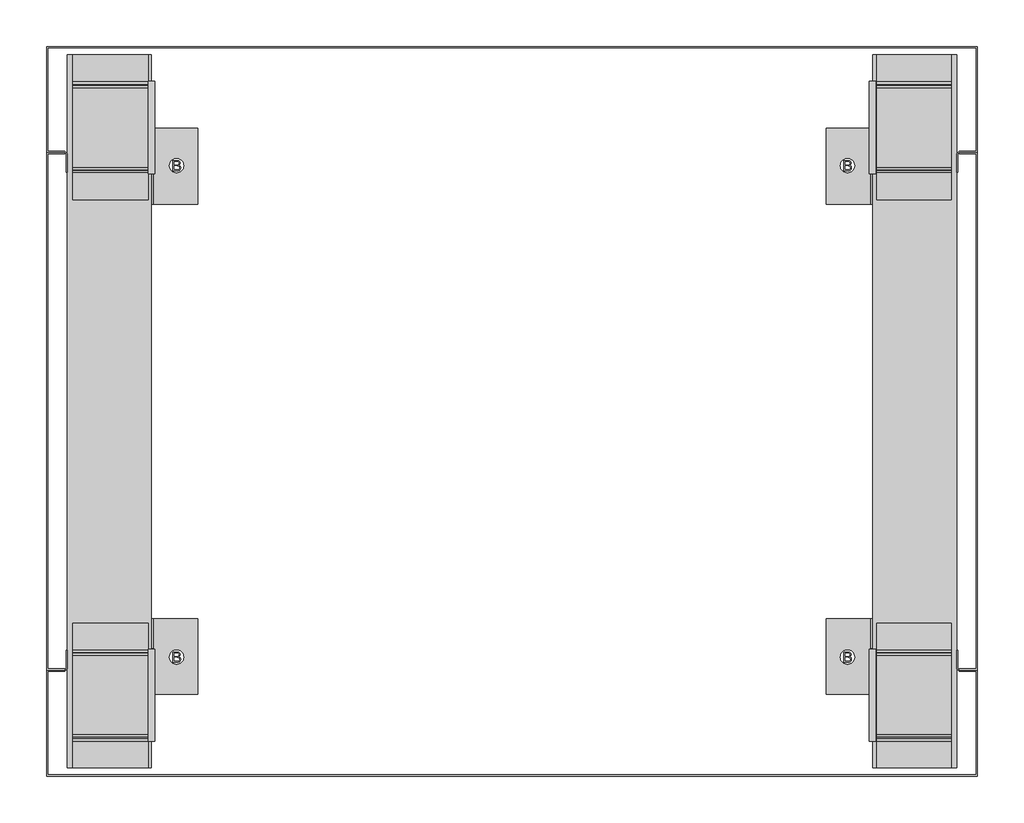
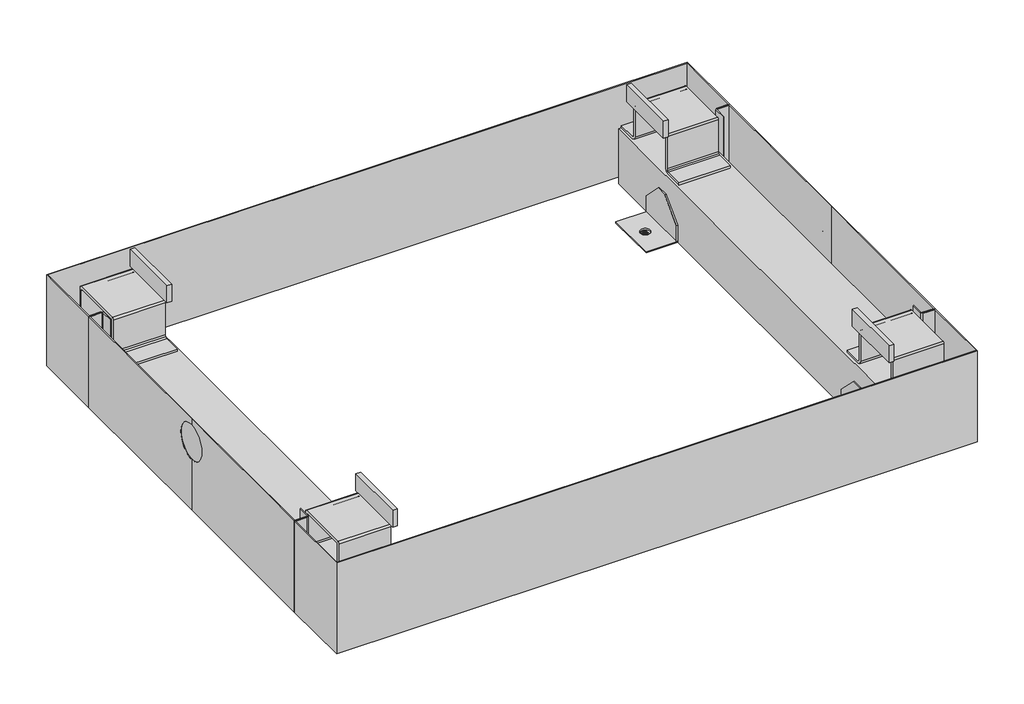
# Not in any storey: 1 proxy.
"""IFC4 building model written with IfcOpenShell, lengths in millimetres."""

import ifcopenshell
import ifcopenshell.guid

model = None  # the IFC model being written
_history = None  # IfcOwnerHistory: only IFC2X3 demands one
_inside = {}  # id of a spatial element -> (the spatial element, [elements in it])
_under = {}  # id of a project, library or spatial element -> (it, [spatial elements below it])
_declared = {}  # id of a project -> (the project, [libraries it declares])
_typed = {}  # id of a type object -> (the type object, [elements of that type])
_made_of = {}  # id of a material, layer set ... -> (it, [elements and type objects made of it])


def new_model(schema):
    """Start an empty IFC model of exactly this schema.

    Asked for "IFC4X3", IfcOpenShell would pick the latest addendum, in which some entities
    have other attributes; the version numbers below select the first issue.
    IFC2X3 requires an IfcOwnerHistory on every rooted entity: one is made here for all.
    """
    global model, _history
    if schema == "IFC4X3":
        model = ifcopenshell.file(schema_version=(4, 3, 0, 0))
    else:
        model = ifcopenshell.file(schema=schema)
    _inside.clear()
    _under.clear()
    _declared.clear()
    _typed.clear()
    _made_of.clear()
    _history = None
    if model.schema == "IFC2X3":
        org = make("IfcOrganization", Name="unknown")
        user = make(
            "IfcPersonAndOrganization",
            ThePerson=make("IfcPerson", FamilyName="unknown"),
            TheOrganization=org,
        )
        app = make(
            "IfcApplication",
            ApplicationDeveloper=org,
            Version="unknown",
            ApplicationFullName="unknown",
            ApplicationIdentifier="unknown",
        )
        _history = make(
            "IfcOwnerHistory",
            OwningUser=user,
            OwningApplication=app,
            ChangeAction="ADDED",
            CreationDate=0,
        )
    return model


def make(cls, **values):
    """One entity of the class cls with the attributes given. An attribute that is None is left unset."""
    return model.create_entity(
        cls, **{name: value for name, value in values.items() if value is not None}
    )


def rooted(cls, **values):
    """An entity with a GlobalId (a new one), such as an element, a storey or a relation."""
    return make(cls, GlobalId=ifcopenshell.guid.new(), OwnerHistory=_history, **values)


def si_unit(unit_type, name, prefix=None):
    """IfcSIUnit, for example si_unit("LENGTHUNIT", "METRE", prefix="MILLI")."""
    return make("IfcSIUnit", UnitType=unit_type, Prefix=prefix, Name=name)


def assignment(units):
    """IfcUnitAssignment: the units of a project."""
    return None if units is None else make("IfcUnitAssignment", Units=units)


def point(xyz):
    """IfcCartesianPoint."""
    return None if xyz is None else make("IfcCartesianPoint", Coordinates=xyz)


def direction(xyz):
    """IfcDirection."""
    return None if xyz is None else make("IfcDirection", DirectionRatios=xyz)


def frame(location, z_axis=None, x_axis=None):
    """IfcAxis2Placement3D, a coordinate frame: its origin and axes. An axis left out is left unset."""
    return make(
        "IfcAxis2Placement3D",
        Location=point(location),
        Axis=direction(z_axis),
        RefDirection=direction(x_axis),
    )


def frame_2d(location, x_axis=None):
    """IfcAxis2Placement2D, a coordinate frame in the plane: its origin and x axis."""
    return make(
        "IfcAxis2Placement2D", Location=point(location), RefDirection=direction(x_axis)
    )


def origin():
    """The frame at (0, 0, 0) with its axes left unset."""
    return frame((0.0, 0.0, 0.0))


def origin_with_axes():
    """The frame at (0, 0, 0) with the z axis (0, 0, 1) and the x axis (1, 0, 0) written out."""
    return frame((0.0, 0.0, 0.0), z_axis=(0.0, 0.0, 1.0), x_axis=(1.0, 0.0, 0.0))


def place(relative_to, where):
    """IfcLocalPlacement: puts the frame where relative to a parent placement (None: the world)."""
    return make(
        "IfcLocalPlacement", PlacementRelTo=relative_to, RelativePlacement=where
    )


def context(
    kind, dimensions, precision=None, world=None, true_north=None, identifier=None
):
    """IfcGeometricRepresentationContext, for example the 3D "Model" context."""
    return make(
        "IfcGeometricRepresentationContext",
        ContextIdentifier=identifier,
        ContextType=kind,
        CoordinateSpaceDimension=dimensions,
        Precision=precision,
        WorldCoordinateSystem=world,
        TrueNorth=true_north,
    )


def project(units=None, contexts=None):
    """IfcProject with its units and contexts."""
    return rooted(
        "IfcProject",
        Name="project",
        RepresentationContexts=contexts,
        UnitsInContext=assignment(units),
    )


def spatial(cls, under=None, at=None, **own):
    """A site, building, storey or space (cls), placed at a placement, below another one or the project."""
    s = rooted(cls, ObjectPlacement=at, **own)
    if under is not None:
        _under.setdefault(under.id(), (under, []))[1].append(s)
    return s


def polyline(points):
    """IfcPolyline through the points."""
    return make("IfcPolyline", Points=[point(p) for p in points])


def circle_curve(where, radius):
    """IfcCircle in the frame where."""
    return make("IfcCircle", Position=where, Radius=radius)


def trimmed(basis, trim1, trim2, sense, master):
    """IfcTrimmedCurve: the piece of a basis curve between two trims."""
    return make(
        "IfcTrimmedCurve",
        BasisCurve=basis,
        Trim1=trim1,
        Trim2=trim2,
        SenseAgreement=sense,
        MasterRepresentation=master,
    )


def segment(curve, same_sense, transition):
    """IfcCompositeCurveSegment."""
    return make(
        "IfcCompositeCurveSegment",
        Transition=transition,
        SameSense=same_sense,
        ParentCurve=curve,
    )


def composite_curve(segments, self_intersect=None):
    """IfcCompositeCurve: segments joined end to end."""
    return make("IfcCompositeCurve", Segments=segments, SelfIntersect=self_intersect)


def outline(outer, holes=None, kind="AREA"):
    """IfcArbitraryClosedProfileDef: a profile drawn as a closed curve; with holes, ...WithVoids."""
    if holes is None:
        return make("IfcArbitraryClosedProfileDef", ProfileType=kind, OuterCurve=outer)
    return make(
        "IfcArbitraryProfileDefWithVoids",
        ProfileType=kind,
        OuterCurve=outer,
        InnerCurves=holes,
    )


def extrude(swept, where, along, depth):
    """IfcExtrudedAreaSolid: the profile swept, set in the frame where, extruded along a direction by depth."""
    return make(
        "IfcExtrudedAreaSolid",
        SweptArea=swept,
        Position=where,
        ExtrudedDirection=direction(along),
        Depth=depth,
    )


def shape(context_of_items, identifier, shape_type, items):
    """IfcShapeRepresentation: the items that make up one representation, for example the "Body"."""
    return make(
        "IfcShapeRepresentation",
        ContextOfItems=context_of_items,
        RepresentationIdentifier=identifier,
        RepresentationType=shape_type,
        Items=items,
    )


def source(mapping_origin, context_of_items, identifier, shape_type, items):
    """IfcRepresentationMap: a shape defined once, which mapped items show again and again."""
    return make(
        "IfcRepresentationMap",
        MappingOrigin=mapping_origin,
        MappedRepresentation=shape(context_of_items, identifier, shape_type, items),
    )


def transform(
    local_origin,
    x_axis=None,
    y_axis=None,
    z_axis=None,
    scale=None,
    scale2=None,
    scale3=None,
    uniform=True,
):
    """IfcCartesianTransformationOperator3D, or its non-uniform kind. x_axis, y_axis, z_axis: its Axis1, 2, 3."""
    if uniform:
        return make(
            "IfcCartesianTransformationOperator3D",
            Axis1=direction(x_axis),
            Axis2=direction(y_axis),
            LocalOrigin=point(local_origin),
            Scale=scale,
            Axis3=direction(z_axis),
        )
    return make(
        "IfcCartesianTransformationOperator3DnonUniform",
        Axis1=direction(x_axis),
        Axis2=direction(y_axis),
        LocalOrigin=point(local_origin),
        Scale=scale,
        Axis3=direction(z_axis),
        Scale2=scale2,
        Scale3=scale3,
    )


def mapped(mapping_source, mapping_target):
    """IfcMappedItem: shows the shape of a source again, moved by a transform."""
    return make(
        "IfcMappedItem", MappingSource=mapping_source, MappingTarget=mapping_target
    )


def made_of(thing, what):
    """Note that an element or type object is made of a material, layer set ...; save() writes the relation."""
    if what is not None:
        _made_of.setdefault(what.id(), (what, []))[1].append(thing)
    return thing


def element(
    cls,
    number,
    at=None,
    inside=None,
    cuts=None,
    type_object=None,
    material=None,
    context=None,
    identifier="Body",
    shape_type=None,
    held_by="IfcProductDefinitionShape",
    body=None,
    shapes=None,
    **own,
):
    """One element of the class cls, such as IfcWall. Its Tag is "e" and its number.

    at: its placement. inside: the storey or other place that contains it. cuts: it is an
    opening in that element (IfcRelVoidsElement). A single representation is given by context,
    identifier, shape_type and body (its items); several are given by shapes. held_by: the class
    of the entity that holds the representations. save() writes the other relations.
    """
    e = rooted(cls, Tag="e%d" % number, ObjectPlacement=at, **own)
    if body is not None:
        shapes = [shape(context, identifier, shape_type, body)]
    if shapes is not None:
        e.Representation = make(held_by, Representations=shapes)
    if inside is not None:
        _inside.setdefault(inside.id(), (inside, []))[1].append(e)
    if cuts is not None:
        rooted(
            "IfcRelVoidsElement", RelatingBuildingElement=cuts, RelatedOpeningElement=e
        )
    if type_object is not None:
        _typed.setdefault(type_object.id(), (type_object, []))[1].append(e)
    return made_of(e, material)


def aggregate(whole, parts):
    """IfcRelAggregates: a whole, such as a stair, and the parts it consists of."""
    return rooted("IfcRelAggregates", RelatingObject=whole, RelatedObjects=parts)


def save(model, path):
    """Write the relations noted so far, then the file.

    IfcRelAggregates (storeys below a building ...), IfcRelContainedInSpatialStructure (elements
    in a storey), IfcRelDefinesByType, IfcRelAssociatesMaterial and IfcRelDeclares: one each for
    every whole, place, type object, material and project.
    """
    for whole, parts in _under.values():
        aggregate(whole, parts)
    for where, things in _inside.values():
        rooted(
            "IfcRelContainedInSpatialStructure",
            RelatedElements=things,
            RelatingStructure=where,
        )
    for kind, things in _typed.values():
        rooted("IfcRelDefinesByType", RelatedObjects=things, RelatingType=kind)
    for what, things in _made_of.values():
        rooted("IfcRelAssociatesMaterial", RelatedObjects=things, RelatingMaterial=what)
    for by, libraries in _declared.values():
        rooted("IfcRelDeclares", RelatingContext=by, RelatedDefinitions=libraries)
    model.write(path)


def plane_surface(at):
    """IfcPlane: the flat surface through the origin of the frame at, square to its z axis."""
    return make("IfcPlane", Position=at)


def revolved_surface(curve, axis_point, axis_direction):
    """IfcSurfaceOfRevolution: the curve turned about the line through axis_point along axis_direction."""
    return make(
        "IfcSurfaceOfRevolution",
        SweptCurve=make("IfcArbitraryOpenProfileDef", ProfileType="CURVE", Curve=curve),
        AxisPosition=make("IfcAxis1Placement", Location=point(axis_point), Axis=direction(axis_direction)),
    )


def advanced_brep(points, edges, surfaces, faces):
    """IfcAdvancedBrep: a solid bounded by faces that lie on surfaces and meet in shared edges.

    An edge is (start, end): straight between two places in points (the first is 0);
    or (start, end, curve); or (start, end, curve, False) where it runs against its curve.
    A face is (place in surfaces, loops), or (place, loops, False) where it looks against
    its surface's normal. A loop lists edges by number (the first is 1), with a minus sign
    where the edge is run from its end to its start. The first loop is the outer one.
    """
    corners = [point(p) for p in points]
    vertices = [make("IfcVertexPoint", VertexGeometry=c) for c in corners]
    made = []
    for start, end, *more in edges:
        made.append(
            make(
                "IfcEdgeCurve",
                EdgeStart=vertices[start],
                EdgeEnd=vertices[end],
                EdgeGeometry=more[0] if more else make("IfcPolyline", Points=[corners[start], corners[end]]),
                SameSense=more[1] if len(more) > 1 else True,
            )
        )
    hull = []
    for where, loops, *sense in faces:
        bounds = []
        for j, loop in enumerate(loops):
            ring = [make("IfcOrientedEdge", EdgeElement=made[abs(k) - 1], Orientation=k > 0) for k in loop]
            bounds.append(
                make(
                    "IfcFaceOuterBound" if j == 0 else "IfcFaceBound",
                    Bound=make("IfcEdgeLoop", EdgeList=ring),
                    Orientation=True,
                )
            )
        hull.append(make("IfcAdvancedFace", Bounds=bounds, FaceSurface=surfaces[where], SameSense=sense[0] if sense else True))
    return make("IfcAdvancedBrep", Outer=make("IfcClosedShell", CfsFaces=hull))


def specialty_equipment_4e6afd6e(model_context):
    return source(origin(), model_context, "Body", "SolidModel", [
        advanced_brep(
        [(-555.0, -126.5, 171.8001281), (-555.0, -435.0, 171.8001281), (-555.0, -743.5, 171.8001281), (-533.1000023, -743.5, 171.8001281), (-533.1000023, -742.0, 171.8001281), (-553.5, -742.0, 171.8001281), (-553.5, -435.0, 171.8001281), (-553.5, -128.0, 171.8001281), (-533.1000023, -128.0, 171.8001281), (-533.1000023, -126.5, 171.8001281), (-555.0, -126.5, 5.0069558), (-533.1000023, -126.5, 5.0069558), (-533.1000023, -128.0, 5.0069558), (-553.5, -128.0, 5.0069558), (-553.5, -435.0, 5.0069558), (-553.5, -742.0, 5.0069558), (-533.1000023, -742.0, 5.0069558), (-533.1000023, -743.5, 5.0069558), (-555.0, -743.5, 5.0069558), (-555.0, -435.0, 5.0069558), (-555.0, -435.0, 97.7016111), (-555.0, -402.9849473, 129.7166638), (-555.0, -435.0, 161.7317164), (-555.0, -467.0150527, 129.7166638), (-553.9619558, -467.0150527, 129.7166638), (-553.9619558, -402.9849473, 129.7166638)],
        [
            (0, 1),
            (1, 2),
            (2, 3),
            (3, 4),
            (4, 5),
            (5, 6),
            (6, 7),
            (7, 8),
            (8, 9),
            (9, 0),
            (10, 11),
            (11, 12),
            (12, 13),
            (13, 14),
            (14, 15),
            (15, 16),
            (16, 17),
            (17, 18),
            (18, 19),
            (19, 10),
            (0, 10),
            (19, 20),
            (20, 21, circle_curve(frame((-555.0, -435.0, 129.7166638), z_axis=(1.0, 0.0, 0.0), x_axis=(0.0, 1.0, 0.0)), 32.0150527)),
            (21, 22, circle_curve(frame((-555.0, -435.0, 129.7166638), z_axis=(1.0, 0.0, 0.0), x_axis=(0.0, 1.0, 0.0)), 32.0150527)),
            (22, 1),
            (22, 23, circle_curve(frame((-555.0, -435.0, 129.7166638), z_axis=(1.0, 0.0, 0.0), x_axis=(0.0, 1.0, 0.0)), 32.0150527)),
            (23, 20, circle_curve(frame((-555.0, -435.0, 129.7166638), z_axis=(1.0, 0.0, 0.0), x_axis=(0.0, 1.0, 0.0)), 32.0150527)),
            (18, 2),
            (17, 3),
            (16, 4),
            (15, 5),
            (14, 6),
            (13, 7),
            (12, 8),
            (11, 9),
            (24, 25, circle_curve(frame((-553.9619558, -435.0, 129.7166638), z_axis=(-1.0, 0.0, 0.0), x_axis=(0.0, 1.0, 0.0)), 32.0150527)),
            (25, 24, circle_curve(frame((-553.9619558, -435.0, 129.7166638), z_axis=(-1.0, 0.0, 0.0), x_axis=(0.0, 1.0, 0.0)), 32.0150527)),
            (25, 21),
            (23, 24),
        ],
        [
            plane_surface(frame((-555.0, -126.5, 171.8001281), z_axis=(0.0, 0.0, 1.0), x_axis=(0.0, -1.0, 0.0))),
            plane_surface(frame((-555.0, -126.5, 5.0069558), z_axis=(0.0, 0.0, -1.0), x_axis=(0.0, 1.0, 0.0))),
            plane_surface(frame((-555.0, -126.5, 171.8001281), z_axis=(-1.0, 0.0, 0.0), x_axis=(0.0, 0.0, -1.0))),
            plane_surface(frame((-555.0, -435.0, 171.8001281), z_axis=(-1.0, 0.0, 0.0), x_axis=(0.0, 0.0, -1.0))),
            plane_surface(frame((-555.0, -743.5, 171.8001281), z_axis=(0.0, -1.0, 0.0), x_axis=(0.0, 0.0, -1.0))),
            plane_surface(frame((-533.1000023, -743.5, 171.8001281), z_axis=(1.0, 0.0, 0.0), x_axis=(0.0, 0.0, -1.0))),
            plane_surface(frame((-533.1000023, -742.0, 171.8001281), z_axis=(0.0, 1.0, 0.0), x_axis=(0.0, 0.0, -1.0))),
            plane_surface(frame((-553.5, -742.0, 171.8001281), z_axis=(1.0, 0.0, 0.0), x_axis=(0.0, 0.0, -1.0))),
            plane_surface(frame((-553.5, -435.0, 171.8001281), z_axis=(1.0, 0.0, 0.0), x_axis=(0.0, 0.0, -1.0))),
            plane_surface(frame((-553.5, -128.0, 171.8001281), z_axis=(0.0, -1.0, 0.0), x_axis=(0.0, 0.0, -1.0))),
            plane_surface(frame((-533.1000023, -128.0, 171.8001281), z_axis=(1.0, 0.0, 0.0), x_axis=(0.0, 0.0, -1.0))),
            plane_surface(frame((-533.1000023, -126.5, 171.8001281), z_axis=(0.0, 1.0, 0.0), x_axis=(0.0, 0.0, -1.0))),
            plane_surface(frame((-553.9619558, -402.9849473, 129.7166638), z_axis=(-1.0, 0.0, 0.0), x_axis=(0.0, 0.0, 1.0))),
            revolved_surface(polyline([(-555.0, -402.9849473, 129.7166638), (-553.9619558, -402.9849473, 129.7166638)]), (-553.9619558, -435.0, 129.7166638), (-1.0, 0.0, 0.0)),
        ],
        [
            (0, [[1, 2, 3, 4, 5, 6, 7, 8, 9, 10]]),
            (1, [[11, 12, 13, 14, 15, 16, 17, 18, 19, 20]]),
            (2, [[-1, 21, -20, 22, 23, 24, 25]]),
            (3, [[-2, -25, 26, 27, -22, -19, 28]]),
            (4, [[-3, -28, -18, 29]]),
            (5, [[-4, -29, -17, 30]]),
            (6, [[-5, -30, -16, 31]]),
            (7, [[-6, -31, -15, 32]]),
            (8, [[-7, -32, -14, 33]]),
            (9, [[-8, -33, -13, 34]]),
            (10, [[-9, -34, -12, 35]]),
            (11, [[-10, -35, -11, -21]]),
            (12, [[36, 37]]),
            (13, [[-37, 38, -23, -27, 39]]),
            (13, [[-36, -39, -26, -24, -38]]),
        ],
    ),
        advanced_brep(
        [(555.0, -126.5, 171.8001281), (533.1000023, -126.5, 171.8001281), (533.1000023, -128.0, 171.8001281), (553.5, -128.0, 171.8001281), (553.5, -435.0, 171.8001281), (553.5, -742.0, 171.8001281), (533.1000023, -742.0, 171.8001281), (533.1000023, -743.5, 171.8001281), (555.0, -743.5, 171.8001281), (555.0, -435.0, 171.8001281), (555.0, -126.5, 5.0069558), (555.0, -435.0, 5.0069558), (555.0, -743.5, 5.0069558), (533.1000023, -743.5, 5.0069558), (533.1000023, -742.0, 5.0069558), (553.5, -742.0, 5.0069558), (553.5, -435.0, 5.0069558), (553.5, -128.0, 5.0069558), (533.1000023, -128.0, 5.0069558), (533.1000023, -126.5, 5.0069558), (555.0, -435.0, 161.7317164), (555.0, -402.9849473, 129.7166638), (555.0, -435.0, 97.7016111), (555.0, -467.0150527, 129.7166638), (553.9619558, -467.0150527, 129.7166638), (553.9619558, -402.9849473, 129.7166638)],
        [
            (0, 1),
            (1, 2),
            (2, 3),
            (3, 4),
            (4, 5),
            (5, 6),
            (6, 7),
            (7, 8),
            (8, 9),
            (9, 0),
            (10, 11),
            (11, 12),
            (12, 13),
            (13, 14),
            (14, 15),
            (15, 16),
            (16, 17),
            (17, 18),
            (18, 19),
            (19, 10),
            (9, 20),
            (20, 21, circle_curve(frame((555.0, -435.0, 129.7166638), z_axis=(-1.0, 0.0, 0.0), x_axis=(0.0, 1.0, 0.0)), 32.0150527)),
            (21, 22, circle_curve(frame((555.0, -435.0, 129.7166638), z_axis=(-1.0, 0.0, 0.0), x_axis=(0.0, 1.0, 0.0)), 32.0150527)),
            (22, 11),
            (10, 0),
            (8, 12),
            (22, 23, circle_curve(frame((555.0, -435.0, 129.7166638), z_axis=(-1.0, 0.0, 0.0), x_axis=(0.0, 1.0, 0.0)), 32.0150527)),
            (23, 20, circle_curve(frame((555.0, -435.0, 129.7166638), z_axis=(-1.0, 0.0, 0.0), x_axis=(0.0, 1.0, 0.0)), 32.0150527)),
            (7, 13),
            (6, 14),
            (5, 15),
            (4, 16),
            (3, 17),
            (2, 18),
            (1, 19),
            (24, 25, circle_curve(frame((553.9619558, -435.0, 129.7166638), z_axis=(1.0, 0.0, 0.0), x_axis=(0.0, 1.0, 0.0)), 32.0150527)),
            (25, 24, circle_curve(frame((553.9619558, -435.0, 129.7166638), z_axis=(1.0, 0.0, 0.0), x_axis=(0.0, 1.0, 0.0)), 32.0150527)),
            (24, 23),
            (21, 25),
        ],
        [
            plane_surface(frame((533.1000023, -126.5, 171.8001281), z_axis=(0.0, 0.0, 1.0), x_axis=(-1.0, 0.0, 0.0))),
            plane_surface(frame((533.1000023, -126.5, 5.0069558), z_axis=(0.0, 0.0, -1.0), x_axis=(1.0, 0.0, 0.0))),
            plane_surface(frame((555.0, -435.0, 171.8001281), z_axis=(1.0, 0.0, 0.0), x_axis=(0.0, 0.0, -1.0))),
            plane_surface(frame((555.0, -743.5, 171.8001281), z_axis=(1.0, 0.0, 0.0), x_axis=(0.0, 0.0, -1.0))),
            plane_surface(frame((533.1000023, -743.5, 171.8001281), z_axis=(0.0, -1.0, 0.0), x_axis=(0.0, 0.0, -1.0))),
            plane_surface(frame((533.1000023, -742.0, 171.8001281), z_axis=(-1.0, 0.0, 0.0), x_axis=(0.0, 0.0, -1.0))),
            plane_surface(frame((553.5, -742.0, 171.8001281), z_axis=(0.0, 1.0, 0.0), x_axis=(0.0, 0.0, -1.0))),
            plane_surface(frame((553.5, -435.0, 171.8001281), z_axis=(-1.0, 0.0, 0.0), x_axis=(0.0, 0.0, -1.0))),
            plane_surface(frame((553.5, -128.0, 171.8001281), z_axis=(-1.0, 0.0, 0.0), x_axis=(0.0, 0.0, -1.0))),
            plane_surface(frame((533.1000023, -128.0, 171.8001281), z_axis=(0.0, -1.0, 0.0), x_axis=(0.0, 0.0, -1.0))),
            plane_surface(frame((533.1000023, -126.5, 171.8001281), z_axis=(-1.0, 0.0, 0.0), x_axis=(0.0, 0.0, -1.0))),
            plane_surface(frame((555.0, -126.5, 171.8001281), z_axis=(0.0, 1.0, 0.0), x_axis=(0.0, 0.0, -1.0))),
            plane_surface(frame((553.9619558, -402.9849473, 129.7166638), z_axis=(1.0, 0.0, 0.0), x_axis=(0.0, 0.0, -1.0))),
            revolved_surface(polyline([(555.0, -402.9849473, 129.7166638), (553.9619558, -402.9849473, 129.7166638)]), (553.9619558, -435.0, 129.7166638), (1.0, 0.0, 0.0)),
        ],
        [
            (0, [[1, 2, 3, 4, 5, 6, 7, 8, 9, 10]]),
            (1, [[11, 12, 13, 14, 15, 16, 17, 18, 19, 20]]),
            (2, [[-10, 21, 22, 23, 24, -11, 25]]),
            (3, [[-9, 26, -12, -24, 27, 28, -21]]),
            (4, [[-8, 29, -13, -26]]),
            (5, [[-7, 30, -14, -29]]),
            (6, [[-6, 31, -15, -30]]),
            (7, [[-5, 32, -16, -31]]),
            (8, [[-4, 33, -17, -32]]),
            (9, [[-3, 34, -18, -33]]),
            (10, [[-2, 35, -19, -34]]),
            (11, [[-1, -25, -20, -35]]),
            (12, [[36, 37]]),
            (13, [[-36, 38, -27, -23, 39]]),
            (13, [[-37, -39, -22, -28, -38]]),
        ],
    ),
        extrude(outline(polyline([(395.7619994, -734.0547572), (395.7619994, -722.0), (400.3619959, -722.0), (402.6149052, -722.3546382), (403.9451665, -723.4450405), (404.4263562, -724.9872018), (404.021686, -726.3954541), (402.7988462, -727.4623119), (404.283618, -728.5865592), (404.8030673, -730.4612859), (404.4484291, -732.0814382), (403.5699269, -733.2351161), (402.2587955, -733.8472718), (400.3266792, -734.0547572), (395.7619994, -734.0547572)]), holes=[polyline([(397.2688441, -726.8972451), (400.0206014, -726.8972451), (401.6275099, -726.7677507), (402.5943038, -726.2100416), (402.9195115, -725.2285324), (402.6163767, -724.2455517), (401.7481752, -723.6642981), (399.8116444, -723.5068447), (397.2688441, -723.5068447), (397.2688441, -726.8972451)]), polyline([(397.2688441, -732.5479126), (400.3590528, -732.5479126), (401.4774141, -732.4890514), (402.4236066, -732.1609007), (403.0504775, -731.4913555), (403.2962227, -730.4760012), (403.0078032, -729.3046649), (402.0733829, -728.6056891), (400.2119, -728.4040898), (397.2688441, -728.4040898), (397.2688441, -732.5479126)])]), frame((0.0, 0.0, -1.0), z_axis=(0.0, 0.0, 1.0), x_axis=(1.0, 0.0, 0.0)), (0.0, 0.0, 1.0), 1.0),
        extrude(outline(polyline([(395.7619994, -148.0), (395.7619994, -135.9452428), (400.3619959, -135.9452428), (402.6149052, -136.299881), (403.9451665, -137.3902833), (404.4263562, -138.9324446), (404.021686, -140.3406969), (402.7988462, -141.4075546), (404.283618, -142.531802), (404.8030673, -144.4065287), (404.4484291, -146.026681), (403.5699269, -147.1803589), (402.2587955, -147.7925146), (400.3266792, -148.0), (395.7619994, -148.0)]), holes=[polyline([(397.2688441, -140.8424879), (400.0206014, -140.8424879), (401.6275099, -140.7129934), (402.5943038, -140.1552843), (402.9195115, -139.1737752), (402.6163767, -138.1907945), (401.7481752, -137.6095409), (399.8116444, -137.4520874), (397.2688441, -137.4520874), (397.2688441, -140.8424879)]), polyline([(397.2688441, -146.4931553), (400.3590528, -146.4931553), (401.4774141, -146.4342942), (402.4236066, -146.1061435), (403.0504775, -145.4365983), (403.2962227, -144.421244), (403.0078032, -143.2499077), (402.0733829, -142.5509319), (400.2119, -142.3493326), (397.2688441, -142.3493326), (397.2688441, -146.4931553)])]), frame((0.0, 0.0, -1.0), z_axis=(0.0, 0.0, 1.0), x_axis=(1.0, 0.0, 0.0)), (0.0, 0.0, 1.0), 1.0),
        extrude(outline(polyline([(-404.2380006, -734.0547572), (-404.2380006, -722.0), (-399.6380041, -722.0), (-397.3850948, -722.3546382), (-396.0548335, -723.4450405), (-395.5736438, -724.9872018), (-395.978314, -726.3954541), (-397.2011538, -727.4623119), (-395.716382, -728.5865592), (-395.1969327, -730.4612859), (-395.5515709, -732.0814382), (-396.4300731, -733.2351161), (-397.7412045, -733.8472718), (-399.6733208, -734.0547572), (-404.2380006, -734.0547572)]), holes=[polyline([(-402.7311559, -726.8972451), (-399.9793986, -726.8972451), (-398.3724901, -726.7677507), (-397.4056962, -726.2100416), (-397.0804885, -725.2285324), (-397.3836233, -724.2455517), (-398.2518248, -723.6642981), (-400.1883556, -723.5068447), (-402.7311559, -723.5068447), (-402.7311559, -726.8972451)]), polyline([(-402.7311559, -732.5479126), (-399.6409472, -732.5479126), (-398.5225859, -732.4890514), (-397.5763934, -732.1609007), (-396.9495225, -731.4913555), (-396.7037773, -730.4760012), (-396.9921968, -729.3046649), (-397.9266171, -728.6056891), (-399.7881, -728.4040898), (-402.7311559, -728.4040898), (-402.7311559, -732.5479126)])]), frame((0.0, 0.0, -1.0), z_axis=(0.0, 0.0, 1.0), x_axis=(1.0, 0.0, 0.0)), (0.0, 0.0, 1.0), 1.0),
        extrude(outline(polyline([(-404.2380006, -148.0), (-404.2380006, -135.9452428), (-399.6380041, -135.9452428), (-397.3850948, -136.299881), (-396.0548335, -137.3902833), (-395.5736438, -138.9324446), (-395.978314, -140.3406969), (-397.2011538, -141.4075546), (-395.716382, -142.531802), (-395.1969327, -144.4065287), (-395.5515709, -146.026681), (-396.4300731, -147.1803589), (-397.7412045, -147.7925146), (-399.6733208, -148.0), (-404.2380006, -148.0)]), holes=[polyline([(-402.7311559, -140.8424879), (-399.9793986, -140.8424879), (-398.3724901, -140.7129934), (-397.4056962, -140.1552843), (-397.0804885, -139.1737752), (-397.3836233, -138.1907945), (-398.2518248, -137.6095409), (-400.1883556, -137.4520874), (-402.7311559, -137.4520874), (-402.7311559, -140.8424879)]), polyline([(-402.7311559, -146.4931553), (-399.6409472, -146.4931553), (-398.5225859, -146.4342942), (-397.5763934, -146.1061435), (-396.9495225, -145.4365983), (-396.7037773, -144.421244), (-396.9921968, -143.2499077), (-397.9266171, -142.5509319), (-399.7881, -142.3493326), (-402.7311559, -142.3493326), (-402.7311559, -146.4931553)])]), frame((0.0, 0.0, -1.0), z_axis=(0.0, 0.0, 1.0), x_axis=(1.0, 0.0, 0.0)), (0.0, 0.0, 1.0), 1.0),
        extrude(outline(polyline([(430.0478439, -682.1946793), (430.0478439, -772.5500183), (375.0, -772.5500183), (375.0, -682.1946793), (430.0478439, -682.1946793)]), holes=[composite_curve([segment(trimmed(circle_curve(frame_2d((400.0, -728.0)), 8.4700909), [point((391.5299091, -728.0))], [point((408.4700909, -728.0))], True, "CARTESIAN"), True, "CONTINUOUS"), segment(trimmed(circle_curve(frame_2d((400.0, -728.0)), 8.4700909), [point((408.4700909, -728.0))], [point((391.5299091, -728.0))], True, "CARTESIAN"), True, "CONTINUOUS")], self_intersect=False)]), origin_with_axes(), (0.0, 0.0, 1.0), 2.452137),
        extrude(outline(polyline([(430.0478439, -187.8053207), (375.0, -187.8053207), (375.0, -97.4499817), (430.0478439, -97.4499817), (430.0478439, -187.8053207)]), holes=[composite_curve([segment(trimmed(circle_curve(frame_2d((400.0, -142.0)), 8.4700909), [point((408.4700909, -142.0))], [point((391.5299091, -142.0))], True, "CARTESIAN"), True, "CONTINUOUS"), segment(trimmed(circle_curve(frame_2d((400.0, -142.0)), 8.4700909), [point((391.5299091, -142.0))], [point((408.4700909, -142.0))], True, "CARTESIAN"), True, "CONTINUOUS")], self_intersect=False)]), origin_with_axes(), (0.0, 0.0, 1.0), 2.452137),
        extrude(outline(polyline([(434.0, -151.5), (426.0478439, -151.5), (426.0478439, -41.5), (434.0, -41.5), (434.0, -151.5)])), frame((0.0, 0.0, 169.8569783), z_axis=(0.0, 0.0, 1.0), x_axis=(1.0, 0.0, 0.0)), (0.0, 0.0, 1.0), 31.1430217),
        extrude(outline(polyline([(426.0478439, -718.5), (434.0, -718.5), (434.0, -828.5), (426.0478439, -828.5), (426.0478439, -718.5)])), frame((0.0, 0.0, 169.8569783), z_axis=(0.0, 0.0, 1.0), x_axis=(1.0, 0.0, 0.0)), (0.0, 0.0, 1.0), 31.1430217),
        extrude(outline(polyline([(-434.0, -718.5), (-426.0478439, -718.5), (-426.0478439, -828.5), (-434.0, -828.5), (-434.0, -718.5)])), frame((0.0, 0.0, 169.8569783), z_axis=(0.0, 0.0, 1.0), x_axis=(1.0, 0.0, 0.0)), (0.0, 0.0, 1.0), 31.1430217),
        extrude(outline(polyline([(-426.0478439, -151.5), (-434.0, -151.5), (-434.0, -41.5), (-426.0478439, -41.5), (-426.0478439, -151.5)])), frame((0.0, 0.0, 169.8569783), z_axis=(0.0, 0.0, 1.0), x_axis=(1.0, 0.0, 0.0)), (0.0, 0.0, 1.0), 31.1430217),
        extrude(outline(composite_curve([segment(polyline([(-827.5, 100.0), (-860.0, 100.0), (-860.0, 104.0), (-828.2053079, 104.0), (-824.5823269, 105.3186573), (-823.1075028, 108.4814277), (-823.1075028, 166.8569783)]), True, "CONTINUOUS"), segment(trimmed(circle_curve(frame_2d((-820.1075028, 166.8569783)), 3.0), [point((-823.1075028, 166.8569783))], [point((-820.1075028, 169.8569783))], False, "CARTESIAN"), True, "CONTINUOUS"), segment(polyline([(-820.1075028, 169.8569783), (-726.3723488, 169.8569783)]), True, "CONTINUOUS"), segment(trimmed(circle_curve(frame_2d((-726.3723488, 166.8569783)), 3.0), [point((-726.3723488, 169.8569783))], [point((-723.3723488, 166.8569783))], False, "CARTESIAN"), True, "CONTINUOUS"), segment(polyline([(-723.3723488, 166.8569783), (-723.3723488, 108.3971605), (-722.2811907, 105.3992283), (-719.2805359, 104.0), (-687.6000061, 104.0), (-687.6000061, 100.0), (-720.1673145, 100.0), (-725.4732837, 102.4742141), (-727.3723488, 107.6918526), (-727.3723488, 162.8569783)]), True, "CONTINUOUS"), segment(trimmed(circle_curve(frame_2d((-730.3723488, 162.8569783)), 3.0), [point((-727.3723488, 162.8569783))], [point((-730.3723488, 165.8569783))], True, "CARTESIAN"), True, "CONTINUOUS"), segment(polyline([(-730.3723488, 165.8569783), (-816.1075028, 165.8569783)]), True, "CONTINUOUS"), segment(trimmed(circle_curve(frame_2d((-816.1075028, 162.8569783)), 3.0), [point((-816.1075028, 165.8569783))], [point((-819.1075028, 162.8569783))], True, "CARTESIAN"), True, "CONTINUOUS"), segment(polyline([(-819.1075028, 162.8569783), (-819.1075028, 107.594649), (-821.6573126, 102.1265643), (-827.5, 100.0)]), True, "CONTINUOUS")], self_intersect=False)), frame((435.0, 0.0, 0.0), z_axis=(1.0, 0.0, 0.0), x_axis=(0.0, 1.0, 0.0)), (0.0, 0.0, 1.0), 89.0),
        extrude(outline(composite_curve([segment(polyline([(-42.5, 100.0), (-48.3426874, 102.1265643), (-50.8924972, 107.594649), (-50.8924972, 162.8569783)]), True, "CONTINUOUS"), segment(trimmed(circle_curve(frame_2d((-53.8924972, 162.8569783)), 3.0), [point((-50.8924972, 162.8569783))], [point((-53.8924972, 165.8569783))], True, "CARTESIAN"), True, "CONTINUOUS"), segment(polyline([(-53.8924972, 165.8569783), (-139.6276512, 165.8569783)]), True, "CONTINUOUS"), segment(trimmed(circle_curve(frame_2d((-139.6276512, 162.8569783)), 3.0), [point((-139.6276512, 165.8569783))], [point((-142.6276512, 162.8569783))], True, "CARTESIAN"), True, "CONTINUOUS"), segment(polyline([(-142.6276512, 162.8569783), (-142.6276512, 107.6918526), (-144.5267163, 102.4742141), (-149.8326855, 100.0), (-182.3999939, 100.0), (-182.3999939, 104.0), (-150.7194641, 104.0), (-147.7188093, 105.3992283), (-146.6276512, 108.3971605), (-146.6276512, 166.8569783)]), True, "CONTINUOUS"), segment(trimmed(circle_curve(frame_2d((-143.6276512, 166.8569783)), 3.0), [point((-146.6276512, 166.8569783))], [point((-143.6276512, 169.8569783))], False, "CARTESIAN"), True, "CONTINUOUS"), segment(polyline([(-143.6276512, 169.8569783), (-49.8924972, 169.8569783)]), True, "CONTINUOUS"), segment(trimmed(circle_curve(frame_2d((-49.8924972, 166.8569783)), 3.0), [point((-49.8924972, 169.8569783))], [point((-46.8924972, 166.8569783))], False, "CARTESIAN"), True, "CONTINUOUS"), segment(polyline([(-46.8924972, 166.8569783), (-46.8924972, 108.4814277), (-45.4176731, 105.3186573), (-41.7946921, 104.0), (-10.0, 104.0), (-10.0, 100.0), (-42.5, 100.0)]), True, "CONTINUOUS")], self_intersect=False)), frame((435.0, 0.0, 0.0), z_axis=(1.0, 0.0, 0.0), x_axis=(0.0, 1.0, 0.0)), (0.0, 0.0, 1.0), 89.0),
        extrude(outline(composite_curve([segment(polyline([(-42.5, 100.0), (-48.3426874, 102.1265643), (-50.8924972, 107.594649), (-50.8924972, 162.8569783)]), True, "CONTINUOUS"), segment(trimmed(circle_curve(frame_2d((-53.8924972, 162.8569783)), 3.0), [point((-50.8924972, 162.8569783))], [point((-53.8924972, 165.8569783))], True, "CARTESIAN"), True, "CONTINUOUS"), segment(polyline([(-53.8924972, 165.8569783), (-139.6276512, 165.8569783)]), True, "CONTINUOUS"), segment(trimmed(circle_curve(frame_2d((-139.6276512, 162.8569783)), 3.0), [point((-139.6276512, 165.8569783))], [point((-142.6276512, 162.8569783))], True, "CARTESIAN"), True, "CONTINUOUS"), segment(polyline([(-142.6276512, 162.8569783), (-142.6276512, 107.6918526), (-144.5267163, 102.4742141), (-149.8326855, 100.0), (-182.3999939, 100.0), (-182.3999939, 104.0), (-150.7194641, 104.0), (-147.7188093, 105.3992283), (-146.6276512, 108.3971605), (-146.6276512, 166.8569783)]), True, "CONTINUOUS"), segment(trimmed(circle_curve(frame_2d((-143.6276512, 166.8569783)), 3.0), [point((-146.6276512, 166.8569783))], [point((-143.6276512, 169.8569783))], False, "CARTESIAN"), True, "CONTINUOUS"), segment(polyline([(-143.6276512, 169.8569783), (-49.8924972, 169.8569783)]), True, "CONTINUOUS"), segment(trimmed(circle_curve(frame_2d((-49.8924972, 166.8569783)), 3.0), [point((-49.8924972, 169.8569783))], [point((-46.8924972, 166.8569783))], False, "CARTESIAN"), True, "CONTINUOUS"), segment(polyline([(-46.8924972, 166.8569783), (-46.8924972, 108.4814277), (-45.4176731, 105.3186573), (-41.7946921, 104.0), (-10.0, 104.0), (-10.0, 100.0), (-42.5, 100.0)]), True, "CONTINUOUS")], self_intersect=False)), frame((-524.0478439, 0.0, 0.0), z_axis=(1.0, 0.0, 0.0), x_axis=(0.0, 1.0, 0.0)), (0.0, 0.0, 1.0), 90.0478439),
        extrude(outline(composite_curve([segment(polyline([(-827.5, 100.0), (-860.0, 100.0), (-860.0, 104.0), (-828.2053079, 104.0), (-824.5823269, 105.3186573), (-823.1075028, 108.4814277), (-823.1075028, 166.8569783)]), True, "CONTINUOUS"), segment(trimmed(circle_curve(frame_2d((-820.1075028, 166.8569783)), 3.0), [point((-823.1075028, 166.8569783))], [point((-820.1075028, 169.8569783))], False, "CARTESIAN"), True, "CONTINUOUS"), segment(polyline([(-820.1075028, 169.8569783), (-726.3723488, 169.8569783)]), True, "CONTINUOUS"), segment(trimmed(circle_curve(frame_2d((-726.3723488, 166.8569783)), 3.0), [point((-726.3723488, 169.8569783))], [point((-723.3723488, 166.8569783))], False, "CARTESIAN"), True, "CONTINUOUS"), segment(polyline([(-723.3723488, 166.8569783), (-723.3723488, 108.3971605), (-722.2811907, 105.3992283), (-719.2805359, 104.0), (-687.6000061, 104.0), (-687.6000061, 100.0), (-720.1673145, 100.0), (-725.4732837, 102.4742141), (-727.3723488, 107.6918526), (-727.3723488, 162.8569783)]), True, "CONTINUOUS"), segment(trimmed(circle_curve(frame_2d((-730.3723488, 162.8569783)), 3.0), [point((-727.3723488, 162.8569783))], [point((-730.3723488, 165.8569783))], True, "CARTESIAN"), True, "CONTINUOUS"), segment(polyline([(-730.3723488, 165.8569783), (-816.1075028, 165.8569783)]), True, "CONTINUOUS"), segment(trimmed(circle_curve(frame_2d((-816.1075028, 162.8569783)), 3.0), [point((-816.1075028, 165.8569783))], [point((-819.1075028, 162.8569783))], True, "CARTESIAN"), True, "CONTINUOUS"), segment(polyline([(-819.1075028, 162.8569783), (-819.1075028, 107.594649), (-821.6573126, 102.1265643), (-827.5, 100.0)]), True, "CONTINUOUS")], self_intersect=False)), frame((-524.0478439, 0.0, 0.0), z_axis=(1.0, 0.0, 0.0), x_axis=(0.0, 1.0, 0.0)), (0.0, 0.0, 1.0), 90.0478439),
        extrude(outline(polyline([(-430.0478439, -187.8053207), (-430.0478439, -97.4499817), (-375.0, -97.4499817), (-375.0, -187.8053207), (-430.0478439, -187.8053207)]), holes=[composite_curve([segment(trimmed(circle_curve(frame_2d((-400.0, -142.0)), 8.4700909), [point((-391.5299091, -142.0))], [point((-408.4700909, -142.0))], True, "CARTESIAN"), True, "CONTINUOUS"), segment(trimmed(circle_curve(frame_2d((-400.0, -142.0)), 8.4700909), [point((-408.4700909, -142.0))], [point((-391.5299091, -142.0))], True, "CARTESIAN"), True, "CONTINUOUS")], self_intersect=False)]), origin_with_axes(), (0.0, 0.0, 1.0), 2.452137),
        extrude(outline(polyline([(-430.0478439, -682.1946793), (-375.0, -682.1946793), (-375.0, -772.5500183), (-430.0478439, -772.5500183), (-430.0478439, -682.1946793)]), holes=[composite_curve([segment(trimmed(circle_curve(frame_2d((-400.0, -728.0)), 8.4700909), [point((-408.4700909, -728.0))], [point((-391.5299091, -728.0))], True, "CARTESIAN"), True, "CONTINUOUS"), segment(trimmed(circle_curve(frame_2d((-400.0, -728.0)), 8.4700909), [point((-391.5299091, -728.0))], [point((-408.4700909, -728.0))], True, "CARTESIAN"), True, "CONTINUOUS")], self_intersect=False)]), origin_with_axes(), (0.0, 0.0, 1.0), 2.452137),
        extrude(outline(polyline([(-772.5500183, 31.9500008), (-737.5500183, 66.9500008), (-717.5500183, 66.9500008), (-682.1946793, 31.5946617), (-682.1946793, 0.0), (-772.5500183, 0.0), (-772.5500183, 31.9500008)])), frame((427.5478439, 0.0, 0.0), z_axis=(1.0, 0.0, 0.0), x_axis=(0.0, 1.0, 0.0)), (0.0, 0.0, 1.0), 2.5),
        extrude(outline(polyline([(-97.4499817, 31.9500008), (-97.4499817, 0.0), (-187.8053207, 0.0), (-187.8053207, 31.5946617), (-152.4499817, 66.9500008), (-132.4499817, 66.9500008), (-97.4499817, 31.9500008)])), frame((427.5478439, 0.0, 0.0), z_axis=(1.0, 0.0, 0.0), x_axis=(0.0, 1.0, 0.0)), (0.0, 0.0, 1.0), 2.5),
        extrude(outline(polyline([(-97.4499817, 31.9500008), (-97.4499817, 0.0), (-187.8053207, 0.0), (-187.8053207, 31.5946617), (-152.4499817, 66.9500008), (-132.4499817, 66.9500008), (-97.4499817, 31.9500008)])), frame((-430.0478439, 0.0, 0.0), z_axis=(1.0, 0.0, 0.0), x_axis=(0.0, 1.0, 0.0)), (0.0, 0.0, 1.0), 2.5),
        extrude(outline(polyline([(-772.5500183, 31.9500008), (-737.5500183, 66.9500008), (-717.5500183, 66.9500008), (-682.1946793, 31.5946617), (-682.1946793, 0.0), (-772.5500183, 0.0), (-772.5500183, 31.9500008)])), frame((-430.0478439, 0.0, 0.0), z_axis=(1.0, 0.0, 0.0), x_axis=(0.0, 1.0, 0.0)), (0.0, 0.0, 1.0), 2.5),
        extrude(outline(polyline([(430.0478439, -10.0), (530.0478439, -10.0), (530.0478439, -860.0), (430.0478439, -860.0), (430.0478439, -10.0)])), origin_with_axes(), (0.0, 0.0, 1.0), 100.0),
        extrude(outline(polyline([(-430.0478439, -10.0), (-430.0478439, -860.0), (-530.0478439, -860.0), (-530.0478439, -10.0), (-430.0478439, -10.0)])), origin_with_axes(), (0.0, 0.0, 1.0), 100.0),
        extrude(outline(polyline([(555.0, 0.0), (555.0, -126.5), (533.0952676, -126.5), (531.5956955, -128.0999756), (531.5956955, -150.0), (530.0956955, -150.0), (530.0956955, -128.0999756), (533.1956711, -125.0), (553.5, -125.0), (553.5, -1.5), (-553.5, -1.5), (-553.5, -125.0), (-533.1956711, -125.0), (-530.0956955, -128.0999756), (-530.0956955, -150.0), (-531.5956955, -150.0), (-531.5956955, -128.0999756), (-533.0952676, -126.5), (-555.0, -126.5), (-555.0, 0.0), (555.0, 0.0)])), frame((0.0, 0.0, 5.0069558), z_axis=(0.0, 0.0, 1.0), x_axis=(1.0, 0.0, 0.0)), (0.0, 0.0, 1.0), 166.7931723),
        extrude(outline(polyline([(555.0, -870.0), (-555.0, -870.0), (-555.0, -743.5), (-533.0952676, -743.5), (-531.5956955, -741.9000244), (-531.5956955, -720.0), (-530.0956955, -720.0), (-530.0956955, -741.9000244), (-533.1956711, -745.0), (-553.5, -745.0), (-553.5, -868.5), (553.5, -868.5), (553.5, -745.0), (533.1956711, -745.0), (530.0956955, -741.9000244), (530.0956955, -720.0), (531.5956955, -720.0), (531.5956955, -741.9000244), (533.0952676, -743.5), (555.0, -743.5), (555.0, -870.0)])), frame((0.0, 0.0, 5.0069558), z_axis=(0.0, 0.0, 1.0), x_axis=(1.0, 0.0, 0.0)), (0.0, 0.0, 1.0), 166.7931723),
    ])


model = new_model("IFC4")

# Units and contexts
model_context = context("Model", 3, world=origin())
ifc_project = project(units=[si_unit("LENGTHUNIT", "METRE", prefix="MILLI")], contexts=[model_context])

# Site, building
site = spatial("IfcSite", under=ifc_project)
building = spatial("IfcBuilding", under=site)

# Proxy
placement = place(None, origin())
specialty_equipment_shape = specialty_equipment_4e6afd6e(model_context)
element("IfcBuildingElementProxy", 1, Name="11782990_EU_APWM024_IG : 59510024_EU_11782990_APWM024_IG", ObjectType="11782990_EU_APWM024_IG : 59510024_EU_11782990_APWM024_IG", at=placement, inside=building, context=model_context, shape_type="MappedRepresentation", body=[
    mapped(specialty_equipment_shape, transform((0.0, 0.0, 0.0), x_axis=(1.0, 0.0, 0.0), y_axis=(0.0, 1.0, 0.0), z_axis=(0.0, 0.0, 1.0))),
])

save(model, "model.ifc")
